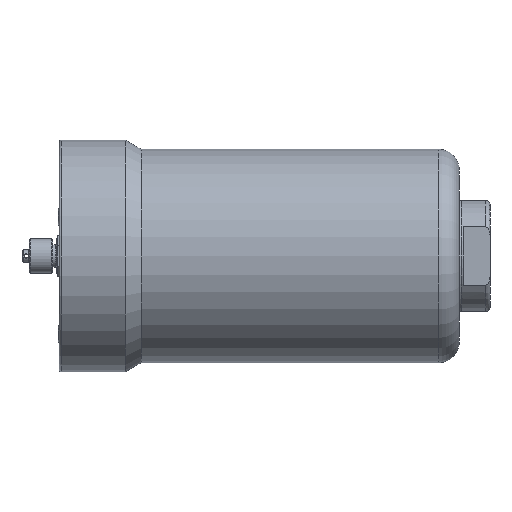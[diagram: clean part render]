
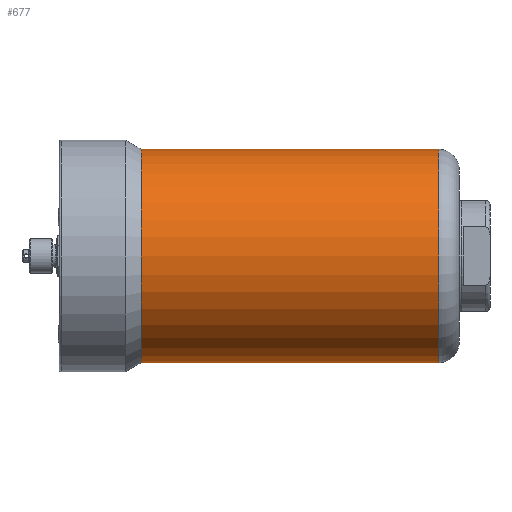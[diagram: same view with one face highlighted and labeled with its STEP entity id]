
A CAD part, left-side view. The second image highlights one B-rep face of the part: STEP entity #677.
In plain terms, the highlighted cylindrical face has radius 52 mm (diameter 104 mm), a partial arc.
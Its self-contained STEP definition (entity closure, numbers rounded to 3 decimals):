
#148 = LINE ( 'NONE', #5798, #816 ) ;
#258 = VECTOR ( 'NONE', #1560, 1000. ) ;
#324 = CARTESIAN_POINT ( 'NONE',  ( 0., 170., 0. ) ) ;
#487 = VERTEX_POINT ( 'NONE', #5598 ) ;
#677 = ADVANCED_FACE ( 'NONE', ( #4697 ), #5789, .T. ) ;
#724 = CARTESIAN_POINT ( 'NONE',  ( 0., 25., 52. ) ) ;
#806 = LINE ( 'NONE', #978, #258 ) ;
#815 = VERTEX_POINT ( 'NONE', #724 ) ;
#816 = VECTOR ( 'NONE', #2632, 1000. ) ;
#876 = DIRECTION ( 'NONE',  ( 0., -1., 0. ) ) ;
#884 = CIRCLE ( 'NONE', #996, 52. ) ;
#978 = CARTESIAN_POINT ( 'NONE',  ( 0., 162., 52. ) ) ;
#996 = AXIS2_PLACEMENT_3D ( 'NONE', #2844, #2748, #3907 ) ;
#1355 = EDGE_CURVE ( 'NONE', #487, #3799, #2704, .T. ) ;
#1487 = DIRECTION ( 'NONE',  ( 0., -1., 0. ) ) ;
#1548 = CARTESIAN_POINT ( 'NONE',  ( 0., 162., 0. ) ) ;
#1560 = DIRECTION ( 'NONE',  ( 0., -1., 0. ) ) ;
#1720 = CARTESIAN_POINT ( 'NONE',  ( 0., 25., -52. ) ) ;
#1807 = ORIENTED_EDGE ( 'NONE', *, *, #6325, .F. ) ;
#1943 = AXIS2_PLACEMENT_3D ( 'NONE', #1548, #1487, #3572 ) ;
#2632 = DIRECTION ( 'NONE',  ( 0., -1., 0. ) ) ;
#2704 = CIRCLE ( 'NONE', #5203, 52. ) ;
#2748 = DIRECTION ( 'NONE',  ( 0., 1., 0. ) ) ;
#2844 = CARTESIAN_POINT ( 'NONE',  ( 0., 25., 0. ) ) ;
#2845 = ORIENTED_EDGE ( 'NONE', *, *, #6531, .T. ) ;
#2973 = CARTESIAN_POINT ( 'NONE',  ( 0., 170., -52. ) ) ;
#3572 = DIRECTION ( 'NONE',  ( 0., 0., -1. ) ) ;
#3597 = ORIENTED_EDGE ( 'NONE', *, *, #1355, .T. ) ;
#3698 = EDGE_CURVE ( 'NONE', #5827, #815, #884, .T. ) ;
#3799 = VERTEX_POINT ( 'NONE', #2973 ) ;
#3907 = DIRECTION ( 'NONE',  ( 0., 0., 1. ) ) ;
#4437 = EDGE_LOOP ( 'NONE', ( #1807, #3597, #2845, #5427 ) ) ;
#4697 = FACE_OUTER_BOUND ( 'NONE', #4437, .T. ) ;
#5203 = AXIS2_PLACEMENT_3D ( 'NONE', #324, #876, #6046 ) ;
#5427 = ORIENTED_EDGE ( 'NONE', *, *, #3698, .T. ) ;
#5598 = CARTESIAN_POINT ( 'NONE',  ( 0., 170., 52. ) ) ;
#5789 = CYLINDRICAL_SURFACE ( 'NONE', #1943, 52. ) ;
#5798 = CARTESIAN_POINT ( 'NONE',  ( 0., 162., -52. ) ) ;
#5827 = VERTEX_POINT ( 'NONE', #1720 ) ;
#6046 = DIRECTION ( 'NONE',  ( 0., 0., -1. ) ) ;
#6325 = EDGE_CURVE ( 'NONE', #487, #815, #806, .T. ) ;
#6531 = EDGE_CURVE ( 'NONE', #3799, #5827, #148, .T. ) ;
